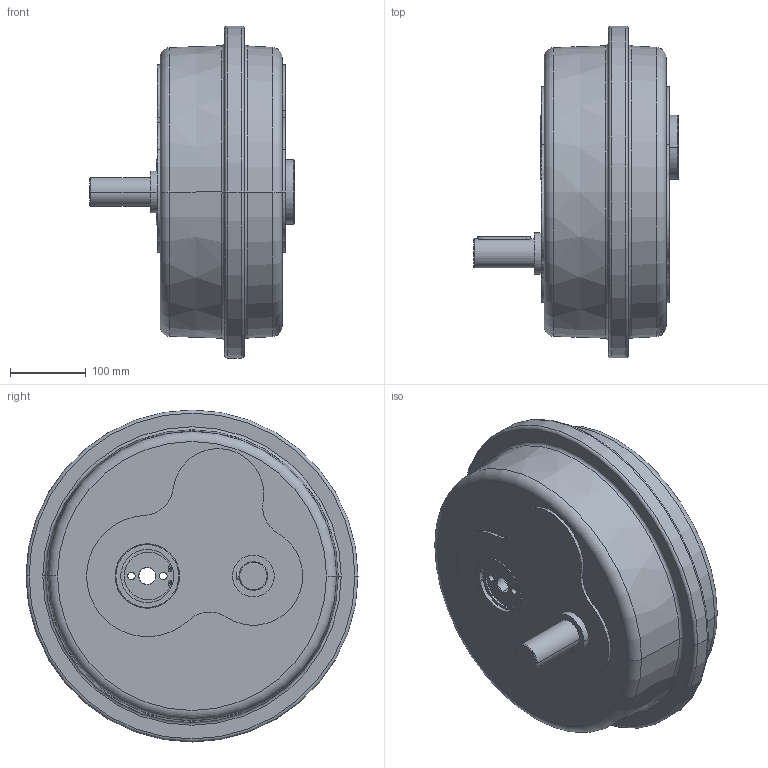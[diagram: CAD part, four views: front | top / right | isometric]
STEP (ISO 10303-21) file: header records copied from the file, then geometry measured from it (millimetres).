
FILE_DESCRIPTION (( 'STEP AP203' ), '1' );
FILE_NAME ('IRO 61.step', '2025-06-25T11:25:43', ( '' ), ( '' ), 'SwSTEP 2.0', 'SolidWorks 2024', '' );
FILE_SCHEMA (( 'CONFIG_CONTROL_DESIGN' ));
Length unit declared in the file: millimetre
Products named in the file (1): IRO 61
Bounding box: 269.75 x 438 x 438 mm (x, y, z)
Volume: 19446039.2 mm3; surface area: 539694.9 mm2
Topology: 3 solids, 3 shells, 123 faces, 297 edges, 190 vertices
Faces by surface type: cylinder 60, plane 30, torus 19, cone 14
Entity records: 3843 total; most frequent: DIRECTION 716, CARTESIAN_POINT 713, ORIENTED_EDGE 594, AXIS2_PLACEMENT_3D 301, EDGE_CURVE 297, VERTEX_POINT 190, CIRCLE 177, EDGE_LOOP 145
